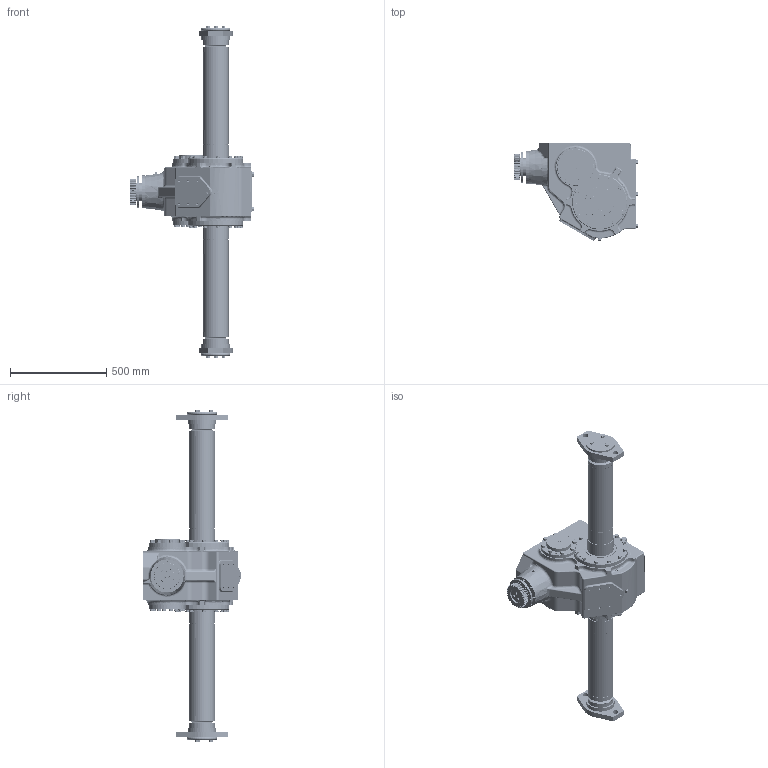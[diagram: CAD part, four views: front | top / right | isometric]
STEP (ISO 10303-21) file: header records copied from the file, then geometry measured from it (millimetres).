
FILE_DESCRIPTION (( 'STEP AP214' ), '1' );
FILE_NAME ('D098R200001.STEP', '2022-03-11T17:24:36', ( '' ), ( '' ), 'SwSTEP 2.0', 'SolidWorks 2021', '' );
FILE_SCHEMA (( 'AUTOMOTIVE_DESIGN' ));
Length unit declared in the file: inch
Products named in the file (45): BCN33215-BCP33215; OS3_740-47; HH8CS_50-13X1_25; D098072; LWZ.50_LWZ 0.5; D098081; D098077; HH8CS_50-13X1_75; D098063; D098070; D098R200001; D098001_ASM_1_1; D098078; D098080; OR3_725X_210; D098058B__AF0; D098022; OS5_375-41; D098071; PPSQM_500-14; SBHCS10-32X_25; HH8CS_50-13X1_5; BCN33215-BCP33215_2; D098057_AF1; D098058_ASM; BCN33215-BCP33215_3; D098073; D098066; D098006; D098001_ASM; RD098001_AF0; D098082; D098056; D098079; HHCSZ.50-13x1.00_HHCSZ.50-13X1.00; D098046; D098076; PPSKG_375-18; D098055; D098010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
Assembly tree (137 placements, depth 3):
  D098R200001
    D098001_ASM_1_1
      D098001_ASM
      RD098001_AF0
    D098046  x2
    D098006  x2
    D098058_ASM
      D098058B__AF0
      D098057_AF1
      D098057_AF0
    D098063  x2
    OS5_375-41  x2
    D098056  x2
    D098074  x2
    D098073  x2
    D098072  x2
    D098010
    D098071
    D098066
    D098078
    OS3_740-47
    BCN33215-BCP33215
      BCN33215-BCP33215_2
      BCN33215-BCP33215_3
      BCN33215-BCP33215
    D098076
    D098082
    D098079
    D098077
    D098013
    OR3_725X_210
    D098055
    PPSQM_500-14
    PPSQG_375-18_1
    PPSKG_375-18  x2
    D098070
    D098080
    D098081
    D098022
    SBHCS10-32X_25  x2
    HH8CS_50-13X1_25  x6
    HH8CS_50-13X1_5  x16
    HH8CS_50-13X1_75  x22
    HHCSZ.50-13x1.00_HHCSZ.50-13X1.00  x6
    LWZ.50_LWZ 0.5  x38
Bounding box: 639.91 x 509.16 x 1722.68 mm (x, y, z)
Volume: 13921413.8 mm3; surface area: 4590833.9 mm2
Topology: 80 solids, 286 shells, 5416 faces, 13299 edges, 8436 vertices
Faces by surface type: cylinder 2149, plane 2079, cone 706, torus 285, bspline 142, sphere 55
Entity records: 215892 total; most frequent: CARTESIAN_POINT 91442, ORIENTED_EDGE 18384, DIRECTION 17922, EDGE_CURVE 9415, AXIS2_PLACEMENT_3D 7252, VERTEX_POINT 5991, EDGE_LOOP 4318, ADVANCED_FACE 3776
